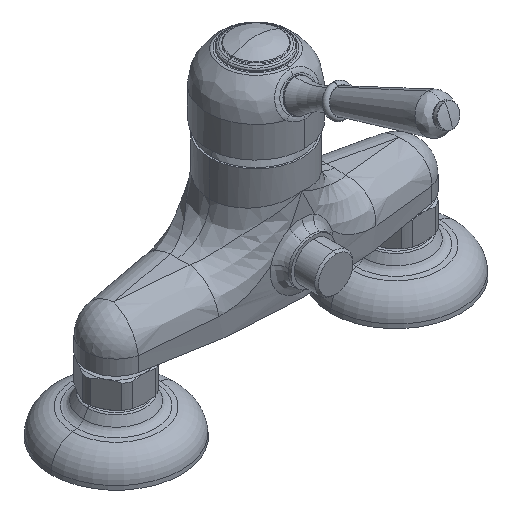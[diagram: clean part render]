
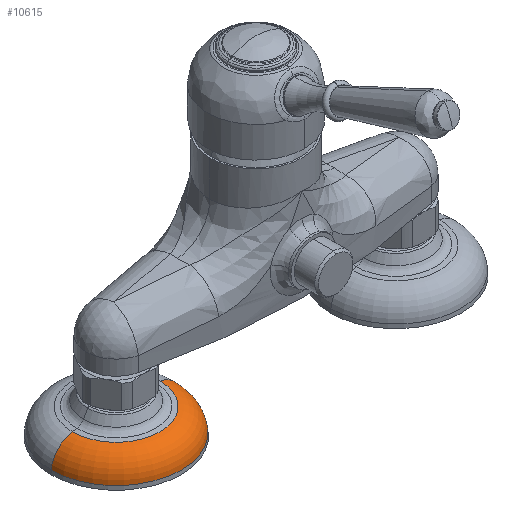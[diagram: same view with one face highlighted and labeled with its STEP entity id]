
A CAD part, isometric view. The second image highlights one B-rep face of the part: STEP entity #10615.
In plain terms, the highlighted toroidal (fillet/blend) face has major radius 21.376 mm and minor radius 13.5 mm.
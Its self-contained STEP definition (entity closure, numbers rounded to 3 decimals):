
#3414=CARTESIAN_POINT('',(-96.376,0.,-38.677));
#3415=DIRECTION('',(0.,-1.,0.));
#3416=DIRECTION('',(-0.16,0.,0.987));
#3417=AXIS2_PLACEMENT_3D('',#3414,#3415,#3416);
#3419=CARTESIAN_POINT('',(-75.,0.,-25.35));
#3420=DIRECTION('',(0.,0.,1.));
#3421=DIRECTION('',(-1.,0.,0.));
#3422=AXIS2_PLACEMENT_3D('',#3419,#3420,#3421);
#3424=CARTESIAN_POINT('',(-53.624,0.,-38.677));
#3425=DIRECTION('',(0.,1.,0.));
#3426=DIRECTION('',(0.16,0.,0.987));
#3427=AXIS2_PLACEMENT_3D('',#3424,#3425,#3426);
#3433=CARTESIAN_POINT('',(-75.,0.,-37.5));
#3434=DIRECTION('',(0.,0.,1.));
#3435=DIRECTION('',(-1.,0.,0.));
#3436=AXIS2_PLACEMENT_3D('',#3433,#3434,#3435);
#6052=CARTESIAN_POINT('',(-98.535,0.,-25.35));
#6053=CARTESIAN_POINT('',(-109.825,0.,-37.5));
#6054=VERTEX_POINT('',#6052);
#6055=VERTEX_POINT('',#6053);
#6058=CARTESIAN_POINT('',(-51.465,0.,-25.35));
#6059=CARTESIAN_POINT('',(-40.175,0.,-37.5));
#6060=VERTEX_POINT('',#6058);
#6061=VERTEX_POINT('',#6059);
#10603=CARTESIAN_POINT('',(-75.,0.,-38.677));
#10604=DIRECTION('',(0.,0.,-1.));
#10605=DIRECTION('',(-1.,0.,0.));
#10606=AXIS2_PLACEMENT_3D('',#10603,#10604,#10605);
#10607=TOROIDAL_SURFACE('',#10606,21.376,13.5);
#10608=ORIENTED_EDGE('',*,*,#10593,.F.);
#10609=ORIENTED_EDGE('',*,*,#10555,.T.);
#10610=ORIENTED_EDGE('',*,*,#10597,.T.);
#10612=ORIENTED_EDGE('',*,*,#10611,.F.);
#10613=EDGE_LOOP('',(#10608,#10609,#10610,#10612));
#10614=FACE_OUTER_BOUND('',#10613,.F.);
#10615=ADVANCED_FACE('',(#10614),#10607,.T.);
#3418=CIRCLE('',#3417,13.5);
#3423=CIRCLE('',#3422,23.535);
#3428=CIRCLE('',#3427,13.5);
#3437=CIRCLE('',#3436,34.825);
#10555=EDGE_CURVE('',#6054,#6060,#3423,.T.);
#10593=EDGE_CURVE('',#6054,#6055,#3418,.T.);
#10597=EDGE_CURVE('',#6060,#6061,#3428,.T.);
#10611=EDGE_CURVE('',#6055,#6061,#3437,.T.);
